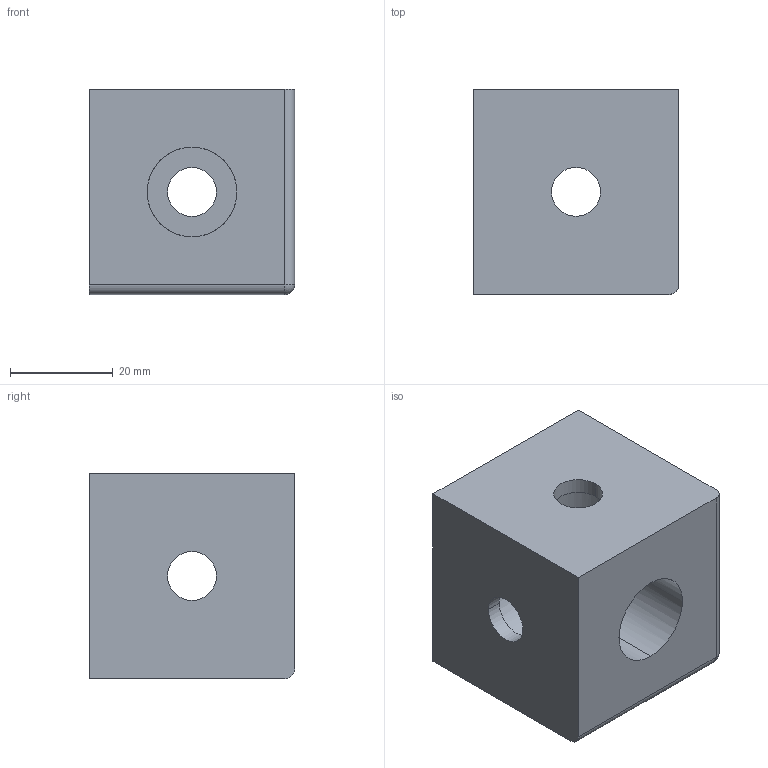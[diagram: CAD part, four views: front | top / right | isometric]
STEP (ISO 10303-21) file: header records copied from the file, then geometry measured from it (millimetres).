
FILE_DESCRIPTION (( 'STEP AP203' ), '1' );
FILE_NAME ('2071.STEP', '2016-09-15T19:20:47', ( '' ), ( '' ), 'SwSTEP 2.0', 'SolidWorks 2014', '' );
FILE_SCHEMA (( 'CONFIG_CONTROL_DESIGN' ));
Length unit declared in the file: millimetre
Products named in the file (1): 2071
Bounding box: 40 x 40 x 40 mm (x, y, z)
Volume: 44141.1 mm3; surface area: 12841.1 mm2
Topology: 1 solids, 1 shells, 31 faces, 88 edges, 57 vertices
Faces by surface type: cylinder 21, plane 9, sphere 1
Entity records: 1104 total; most frequent: CARTESIAN_POINT 248, ORIENTED_EDGE 174, DIRECTION 157, EDGE_CURVE 87, AXIS2_PLACEMENT_3D 62, VERTEX_POINT 57, EDGE_LOOP 40, LINE 33
